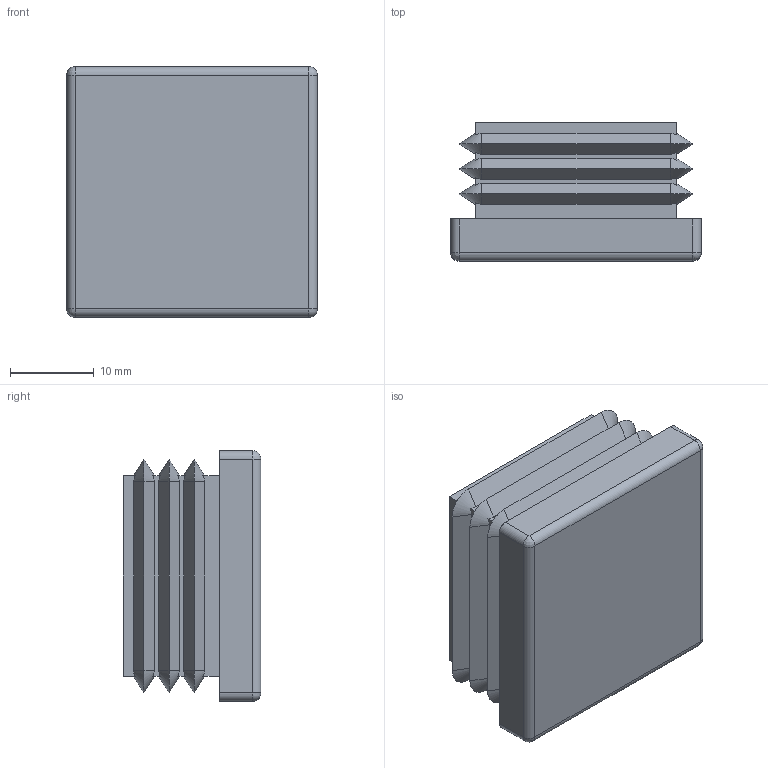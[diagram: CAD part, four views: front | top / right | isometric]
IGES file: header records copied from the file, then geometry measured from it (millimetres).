
Start section: SolidWorks IGES file using analytic representation for surfaces
Global section: file name: C:\HEMSIDA\cad\SLDPRT_2015\ifr\\ifr_30.igs; native system: SolidWorks 2015; preprocessor: SolidWorks 2015; author: Magnus; date: 150818.111758; units: millimetre
Bounding box: 30 x 16.5 x 30 mm (x, y, z)
Surface area: 5139.8 mm2 (no closed solid volume)
Topology: 0 solids, 0 shells, 88 faces, 659 edges, 655 vertices
Faces by surface type: bspline 52, revolution 36
